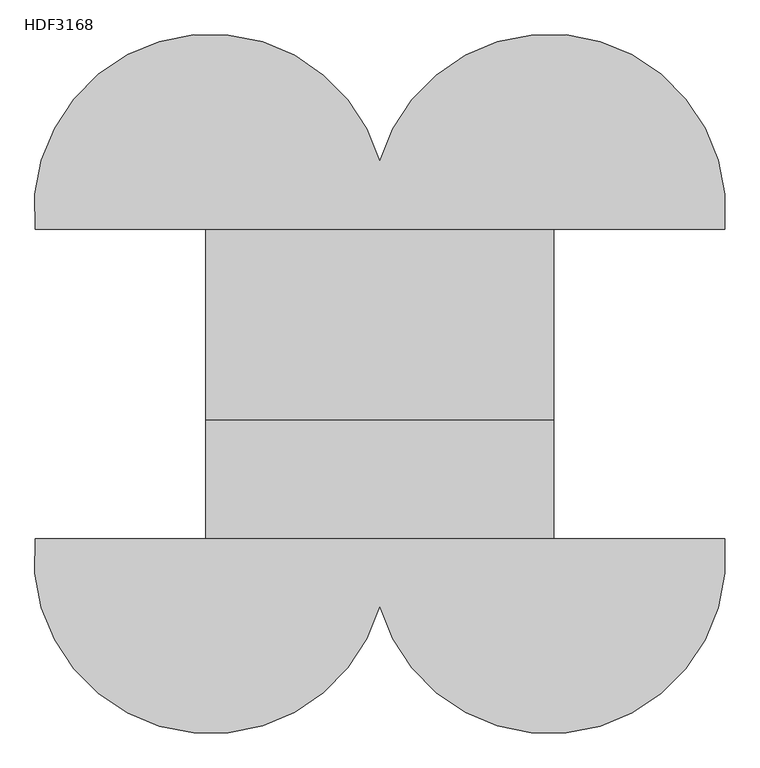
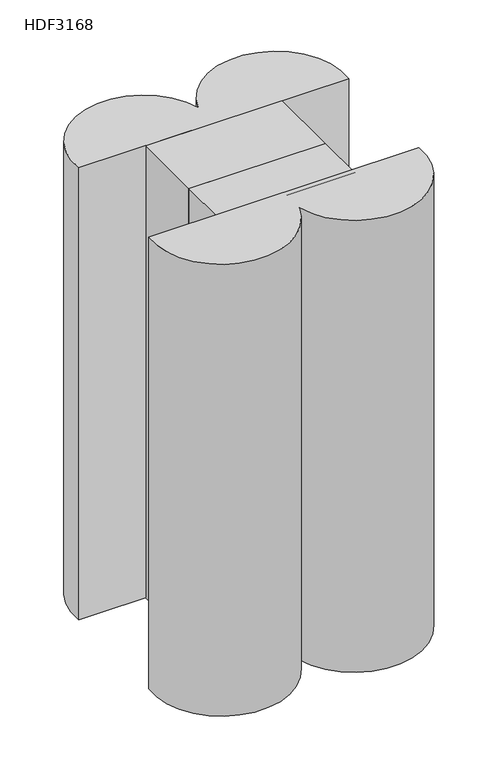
"""IFC4 building model written with IfcOpenShell, lengths in millimetres: electric appliance geometry, Data_Device-Network-Leviton-HDF3168 : HDF3168."""

from ifc_helpers import new_model, si_unit, point, frame_2d, origin, origin_with_axes, place, context, project, spatial, polyline, circle_curve, trimmed, segment, composite_curve, outline, extrude, source, transform, mapped, element, save


def hdf3168_00d753bc(model_context):
    return source(origin(), model_context, "Body", "SweptSolid", [
        extrude(outline(composite_curve([segment(polyline([(579.8239, 488.7032309), (-625.8741, 488.7032309)]), True, "CONTINUOUS"), segment(trimmed(circle_curve(frame_2d((-319.2251, 521.634231)), 308.4121592), [point((-625.8741, 488.7032309))], [point((-23.0251, 607.5622239))], False, "CARTESIAN"), True, "CONTINUOUS"), segment(trimmed(circle_curve(frame_2d((273.1749, 521.634231)), 308.4121592), [point((-23.0251, 607.5622239))], [point((579.8239, 488.7032309))], False, "CARTESIAN"), True, "CONTINUOUS")], self_intersect=False)), origin_with_axes(), (0.0, 0.0, 1.0), 2136.25684),
        extrude(outline(composite_curve([segment(trimmed(circle_curve(frame_2d((273.1749, -85.135231)), 308.4121592), [point((579.8239, -52.2042309))], [point((-23.0251, -171.0632239))], False, "CARTESIAN"), True, "CONTINUOUS"), segment(trimmed(circle_curve(frame_2d((-319.2251, -85.135231)), 308.4121592), [point((-23.0251, -171.0632239))], [point((-625.8741, -52.2042309))], False, "CARTESIAN"), True, "CONTINUOUS"), segment(polyline([(-625.8741, -52.2042309), (579.8239, -52.2042309)]), True, "CONTINUOUS")], self_intersect=False)), origin_with_axes(), (0.0, 0.0, 1.0), 2136.25684),
        extrude(outline(polyline([(281.1399, 154.2415), (281.1399, 8.0645), (-327.1901, 8.0645), (-327.1901, 154.2415), (281.1399, 154.2415)])), origin_with_axes(), (0.0, 0.0, 1.0), 4.1656),
        extrude(outline(polyline([(281.1399, 154.2415), (281.1399, -74.6125), (-327.1901, -74.6125), (-327.1901, 154.2415), (281.1399, 154.2415)])), origin_with_axes(), (0.0, 0.0, 1.0), 2136.25684),
        extrude(outline(polyline([(281.1399, 511.1115), (281.1399, 154.2415), (-327.1901, 154.2415), (-327.1901, 511.1115), (281.1399, 511.1115)])), origin_with_axes(), (0.0, 0.0, 1.0), 2136.25684),
    ])


if __name__ == "__main__":
    model = new_model("IFC4")
    model_context = context("Model", 3, world=origin())
    ifc_project = project(units=[si_unit("LENGTHUNIT", "METRE", prefix="MILLI")], contexts=[model_context])
    site = spatial("IfcSite", under=ifc_project)
    building = spatial("IfcBuilding", under=site)
    placement = place(None, origin())
    hdf3168_shape = hdf3168_00d753bc(model_context)
    element("IfcElectricAppliance", 1, ObjectType="Data_Device-Network-Leviton-HDF3168 : HDF3168", at=placement, inside=building, context=model_context, shape_type="MappedRepresentation", body=[
        mapped(hdf3168_shape, transform((0.0, 0.0, 0.0), x_axis=(1.0, 0.0, 0.0), y_axis=(0.0, 1.0, 0.0), z_axis=(0.0, 0.0, 1.0))),
    ])
    save(model, "model.ifc")
